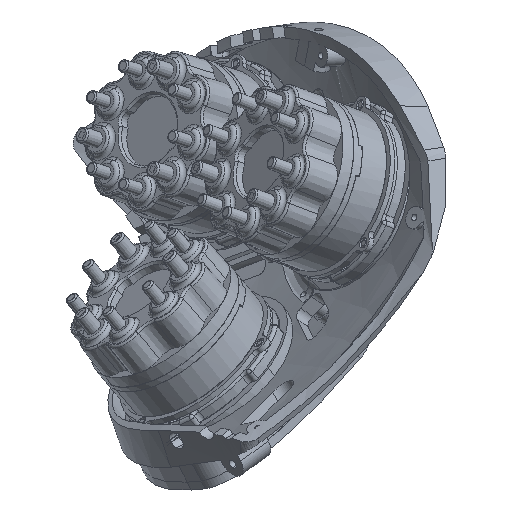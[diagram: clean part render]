
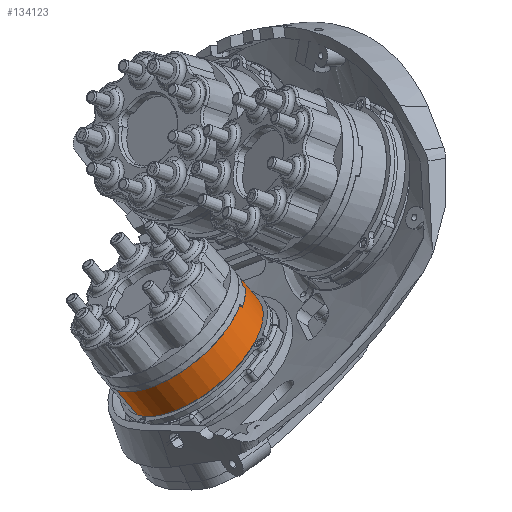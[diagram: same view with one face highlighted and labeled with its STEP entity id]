
A CAD part, isometric view. The second image highlights one B-rep face of the part: STEP entity #134123.
In plain terms, the highlighted cylindrical face has radius 18.5 mm (diameter 37 mm), a partial arc.
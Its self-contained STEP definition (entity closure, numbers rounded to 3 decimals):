
#3179 = EDGE_CURVE ( 'NONE', #50142, #127154, #137113, .T. ) ;
#4185 = CARTESIAN_POINT ( 'NONE',  ( -9.332, 8.1, 15.974 ) ) ;
#4492 = EDGE_CURVE ( 'NONE', #127154, #58079, #114073, .T. ) ;
#4696 = CARTESIAN_POINT ( 'NONE',  ( -14.717, 8.1, 11.209 ) ) ;
#7696 = LINE ( 'NONE', #131533, #123253 ) ;
#12163 = CARTESIAN_POINT ( 'NONE',  ( 0., 8.1, 0. ) ) ;
#13164 = CYLINDRICAL_SURFACE ( 'NONE', #114473, 18.5 ) ;
#13693 = CIRCLE ( 'NONE', #78859, 18.5 ) ;
#20846 = EDGE_CURVE ( 'NONE', #101645, #25201, #101438, .T. ) ;
#22113 = EDGE_CURVE ( 'NONE', #99702, #56143, #73657, .T. ) ;
#22170 = CARTESIAN_POINT ( 'NONE',  ( -1.54, 8.1, 18.436 ) ) ;
#23849 = CARTESIAN_POINT ( 'NONE',  ( 0., 8.1, 0. ) ) ;
#24117 = DIRECTION ( 'NONE',  ( 0., 0., -1. ) ) ;
#25201 = VERTEX_POINT ( 'NONE', #35178 ) ;
#26702 = DIRECTION ( 'NONE',  ( 0., 0., 1. ) ) ;
#29182 = CARTESIAN_POINT ( 'NONE',  ( -14.717, 8.1, 11.209 ) ) ;
#34639 = CARTESIAN_POINT ( 'NONE',  ( 0., 8.1, -18.5 ) ) ;
#35178 = CARTESIAN_POINT ( 'NONE',  ( -9.332, 7.2, 15.974 ) ) ;
#35434 = DIRECTION ( 'NONE',  ( 0., 1., 0. ) ) ;
#40799 = AXIS2_PLACEMENT_3D ( 'NONE', #23849, #129353, #26702 ) ;
#41286 = DIRECTION ( 'NONE',  ( 0., -1., 0. ) ) ;
#42439 = ORIENTED_EDGE ( 'NONE', *, *, #3179, .T. ) ;
#45726 = DIRECTION ( 'NONE',  ( 0., 1., 0. ) ) ;
#46467 = DIRECTION ( 'NONE',  ( 0., 0., 1. ) ) ;
#50142 = VERTEX_POINT ( 'NONE', #104168 ) ;
#54643 = CARTESIAN_POINT ( 'NONE',  ( 0., 0.25, 0. ) ) ;
#56143 = VERTEX_POINT ( 'NONE', #122453 ) ;
#57291 = CARTESIAN_POINT ( 'NONE',  ( -1.54, 8.2, 18.436 ) ) ;
#58079 = VERTEX_POINT ( 'NONE', #22170 ) ;
#65131 = ORIENTED_EDGE ( 'NONE', *, *, #4492, .T. ) ;
#66379 = AXIS2_PLACEMENT_3D ( 'NONE', #12163, #45726, #46467 ) ;
#67984 = VECTOR ( 'NONE', #115967, 1000. ) ;
#68383 = ORIENTED_EDGE ( 'NONE', *, *, #123394, .F. ) ;
#73657 = LINE ( 'NONE', #29182, #109001 ) ;
#75442 = ORIENTED_EDGE ( 'NONE', *, *, #105815, .T. ) ;
#78083 = FACE_OUTER_BOUND ( 'NONE', #131568, .T. ) ;
#78859 = AXIS2_PLACEMENT_3D ( 'NONE', #123424, #135769, #102990 ) ;
#82163 = ORIENTED_EDGE ( 'NONE', *, *, #20846, .T. ) ;
#89050 = VERTEX_POINT ( 'NONE', #34639 ) ;
#89717 = DIRECTION ( 'NONE',  ( 0., -1., 0. ) ) ;
#94114 = CARTESIAN_POINT ( 'NONE',  ( -9.332, 8.1, 15.974 ) ) ;
#96386 = ORIENTED_EDGE ( 'NONE', *, *, #128200, .F. ) ;
#99051 = DIRECTION ( 'NONE',  ( 0., 0., 1. ) ) ;
#99702 = VERTEX_POINT ( 'NONE', #4696 ) ;
#101438 = LINE ( 'NONE', #94114, #67984 ) ;
#101645 = VERTEX_POINT ( 'NONE', #4185 ) ;
#102990 = DIRECTION ( 'NONE',  ( 0., 0., 1. ) ) ;
#103556 = CIRCLE ( 'NONE', #40799, 18.5 ) ;
#104168 = CARTESIAN_POINT ( 'NONE',  ( 0., 0.25, -18.5 ) ) ;
#105815 = EDGE_CURVE ( 'NONE', #89050, #50142, #7696, .T. ) ;
#109001 = VECTOR ( 'NONE', #117328, 1000. ) ;
#109990 = DIRECTION ( 'NONE',  ( 0., 1., 0. ) ) ;
#113832 = AXIS2_PLACEMENT_3D ( 'NONE', #54643, #109990, #99051 ) ;
#114073 = LINE ( 'NONE', #57291, #142061 ) ;
#114473 = AXIS2_PLACEMENT_3D ( 'NONE', #123926, #89717, #24117 ) ;
#115967 = DIRECTION ( 'NONE',  ( 0., -1., 0. ) ) ;
#117328 = DIRECTION ( 'NONE',  ( 0., -1., 0. ) ) ;
#122453 = CARTESIAN_POINT ( 'NONE',  ( -14.717, 7.2, 11.209 ) ) ;
#123253 = VECTOR ( 'NONE', #41286, 1000. ) ;
#123394 = EDGE_CURVE ( 'NONE', #89050, #99702, #129133, .T. ) ;
#123406 = EDGE_CURVE ( 'NONE', #101645, #58079, #103556, .T. ) ;
#123424 = CARTESIAN_POINT ( 'NONE',  ( 0., 7.2, 0. ) ) ;
#123926 = CARTESIAN_POINT ( 'NONE',  ( 0., 8.2, 0. ) ) ;
#127094 = CARTESIAN_POINT ( 'NONE',  ( -1.54, 0.25, 18.436 ) ) ;
#127154 = VERTEX_POINT ( 'NONE', #127094 ) ;
#128200 = EDGE_CURVE ( 'NONE', #56143, #25201, #13693, .T. ) ;
#129133 = CIRCLE ( 'NONE', #66379, 18.5 ) ;
#129353 = DIRECTION ( 'NONE',  ( 0., 1., 0. ) ) ;
#131533 = CARTESIAN_POINT ( 'NONE',  ( 0., 8.2, -18.5 ) ) ;
#131568 = EDGE_LOOP ( 'NONE', ( #68383, #75442, #42439, #65131, #138122, #82163, #96386, #135986 ) ) ;
#134123 = ADVANCED_FACE ( 'NONE', ( #78083 ), #13164, .T. ) ;
#135769 = DIRECTION ( 'NONE',  ( 0., 1., 0. ) ) ;
#135986 = ORIENTED_EDGE ( 'NONE', *, *, #22113, .F. ) ;
#137113 = CIRCLE ( 'NONE', #113832, 18.5 ) ;
#138122 = ORIENTED_EDGE ( 'NONE', *, *, #123406, .F. ) ;
#142061 = VECTOR ( 'NONE', #35434, 1000. ) ;
